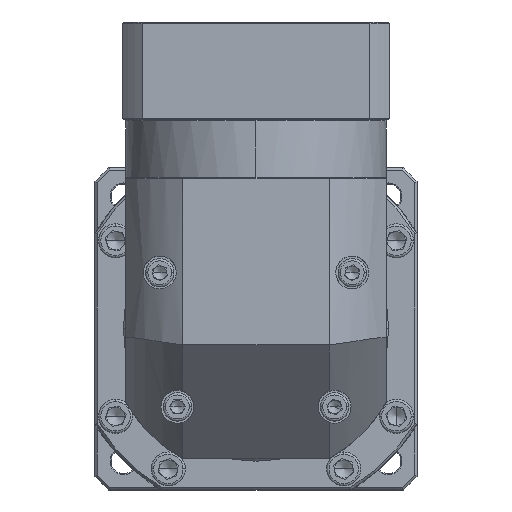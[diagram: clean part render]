
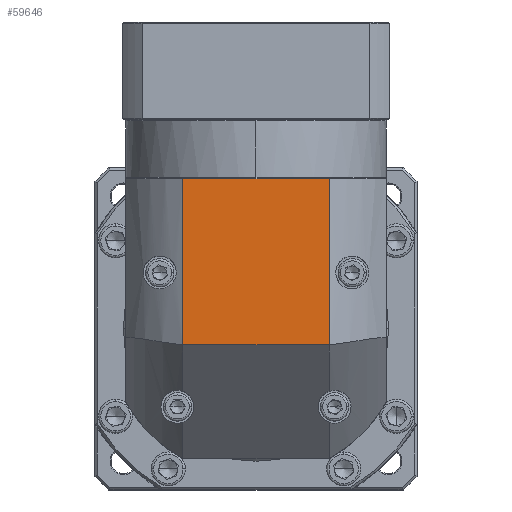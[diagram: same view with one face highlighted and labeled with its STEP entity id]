
A CAD part, top view. The second image highlights one B-rep face of the part: STEP entity #59646.
In plain terms, the highlighted planar face has unit normal (0, 0, 1).
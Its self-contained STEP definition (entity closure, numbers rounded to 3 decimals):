
#5733 = ORIENTED_EDGE ( 'NONE', *, *, #55211, .F. ) ;
#8448 = VECTOR ( 'NONE', #100745, 1000. ) ;
#10357 = EDGE_CURVE ( 'NONE', #49530, #121792, #38707, .T. ) ;
#11515 = ORIENTED_EDGE ( 'NONE', *, *, #130639, .F. ) ;
#25399 = LINE ( 'NONE', #112349, #139386 ) ;
#33105 = DIRECTION ( 'NONE',  ( 1., 0., 0. ) ) ;
#38235 = CARTESIAN_POINT ( 'NONE',  ( -187.061, 35.792, 73.625 ) ) ;
#38707 = LINE ( 'NONE', #135568, #8448 ) ;
#39603 = ORIENTED_EDGE ( 'NONE', *, *, #10357, .F. ) ;
#40132 = FACE_OUTER_BOUND ( 'NONE', #121892, .T. ) ;
#48116 = CARTESIAN_POINT ( 'NONE',  ( -122.262, 109.192, 73.625 ) ) ;
#49530 = VERTEX_POINT ( 'NONE', #38235 ) ;
#53069 = VECTOR ( 'NONE', #61341, 1000. ) ;
#55211 = EDGE_CURVE ( 'NONE', #121792, #98681, #25399, .T. ) ;
#57017 = AXIS2_PLACEMENT_3D ( 'NONE', #98799, #64415, #112273 ) ;
#58233 = DIRECTION ( 'NONE',  ( -1., 0., 0. ) ) ;
#58713 = CARTESIAN_POINT ( 'NONE',  ( -212.162, 35.792, 73.625 ) ) ;
#59646 = ADVANCED_FACE ( 'NONE', ( #40132 ), #88845, .F. ) ;
#61341 = DIRECTION ( 'NONE',  ( 0., -1., 0. ) ) ;
#64415 = DIRECTION ( 'NONE',  ( 0., 0., -1. ) ) ;
#84064 = ORIENTED_EDGE ( 'NONE', *, *, #122864, .F. ) ;
#88845 = PLANE ( 'NONE',  #57017 ) ;
#98681 = VERTEX_POINT ( 'NONE', #48116 ) ;
#98685 = LINE ( 'NONE', #58713, #102300 ) ;
#98799 = CARTESIAN_POINT ( 'NONE',  ( -154.662, 43.292, 73.625 ) ) ;
#99397 = LINE ( 'NONE', #139096, #53069 ) ;
#100745 = DIRECTION ( 'NONE',  ( 0., 1., 0. ) ) ;
#102300 = VECTOR ( 'NONE', #58233, 1000. ) ;
#109884 = CARTESIAN_POINT ( 'NONE',  ( -187.061, 109.192, 73.625 ) ) ;
#112273 = DIRECTION ( 'NONE',  ( 1., 0., 0. ) ) ;
#112349 = CARTESIAN_POINT ( 'NONE',  ( -212.162, 109.192, 73.625 ) ) ;
#115309 = VERTEX_POINT ( 'NONE', #142727 ) ;
#121792 = VERTEX_POINT ( 'NONE', #109884 ) ;
#121892 = EDGE_LOOP ( 'NONE', ( #39603, #84064, #11515, #5733 ) ) ;
#122864 = EDGE_CURVE ( 'NONE', #115309, #49530, #98685, .T. ) ;
#130639 = EDGE_CURVE ( 'NONE', #98681, #115309, #99397, .T. ) ;
#135568 = CARTESIAN_POINT ( 'NONE',  ( -187.061, -14.208, 73.625 ) ) ;
#139096 = CARTESIAN_POINT ( 'NONE',  ( -122.262, -14.208, 73.625 ) ) ;
#139386 = VECTOR ( 'NONE', #33105, 1000. ) ;
#142727 = CARTESIAN_POINT ( 'NONE',  ( -122.262, 35.792, 73.625 ) ) ;
